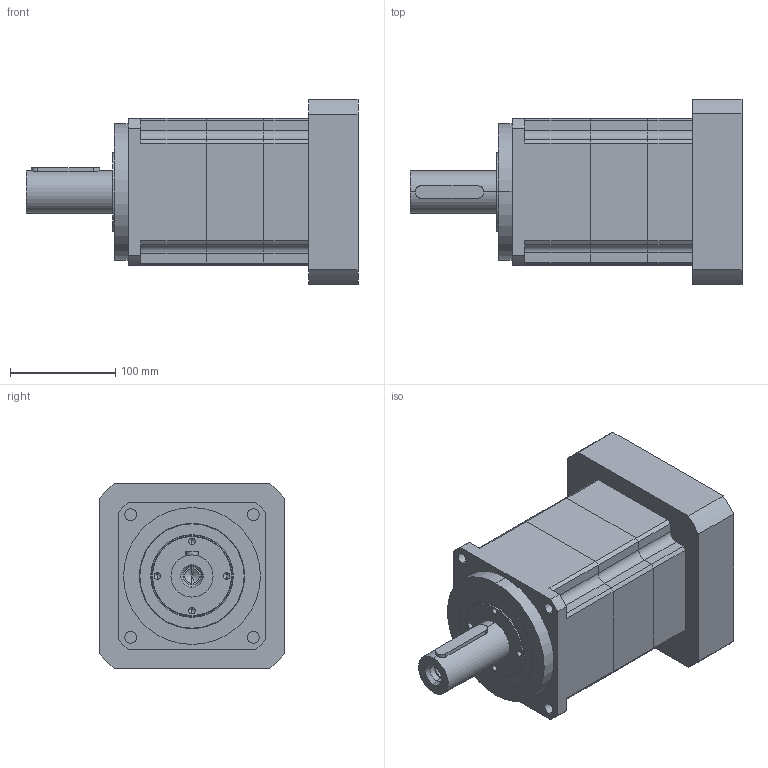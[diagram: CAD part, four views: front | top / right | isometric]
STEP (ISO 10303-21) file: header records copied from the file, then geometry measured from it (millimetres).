
FILE_DESCRIPTION (( 'STEP AP214' ), '1' );
FILE_NAME ('PX140-L2.STEP', '2020-11-06T03:43:28', ( '微软用户' ), ( '微软中国' ), 'SwSTEP 2.0', 'SolidWorks 2014', '' );
FILE_SCHEMA (( 'AUTOMOTIVE_DESIGN' ));
Length unit declared in the file: millimetre
Products named in the file (9): PX140-L2; PX140奻裔啣; PX140二级齿圈; PX140狟裔啣; PM140 蟀諉啣 176選 114.3x10 200xM8 47L; 邧埴瑩 12x8x65; TC75-100-10_TC-34.9-55-7; TC70-95-8_TC-34.9-55-7; 囀鞠褒蹟佪-M10℅30
Assembly tree (8 placements, depth 2):
  PX140-L2
    PX140奻裔啣
    PX140二级齿圈
    PX140狟裔啣
    PM140 蟀諉啣 176選 114.3x10 200xM8 47L
    邧埴瑩 12x8x65
    TC75-100-10_TC-34.9-55-7
    TC70-95-8_TC-34.9-55-7
    囀鞠褒蹟佪-M10℅30
Bounding box: 315.5 x 176 x 176 mm (x, y, z)
Volume: 4444552.2 mm3; surface area: 406293.6 mm2
Topology: 8 solids, 8 shells, 374 faces, 928 edges, 584 vertices
Faces by surface type: cylinder 178, plane 122, cone 42, torus 32
Entity records: 11965 total; most frequent: CARTESIAN_POINT 2169, DIRECTION 2135, ORIENTED_EDGE 1820, EDGE_CURVE 910, AXIS2_PLACEMENT_3D 850, VERTEX_POINT 584, CIRCLE 465, EDGE_LOOP 442
